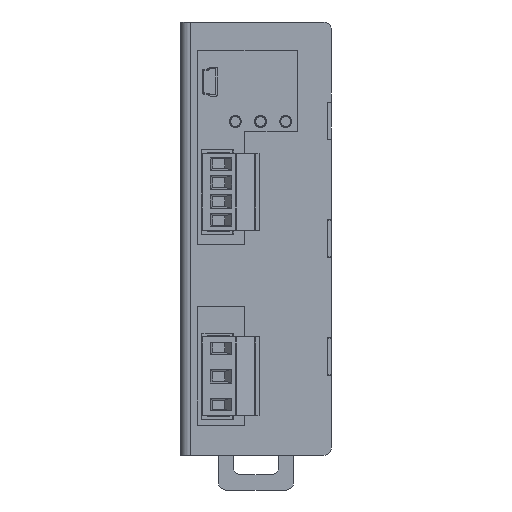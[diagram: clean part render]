
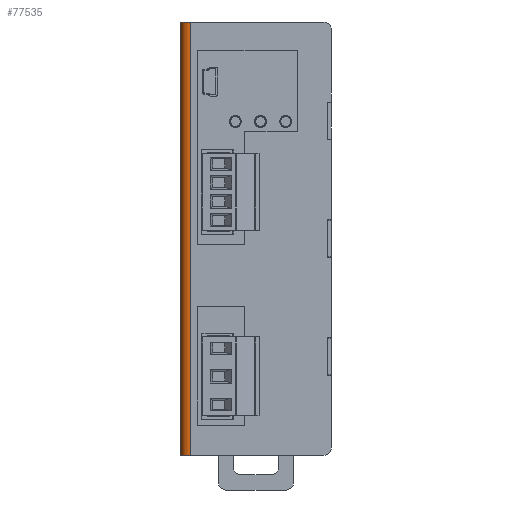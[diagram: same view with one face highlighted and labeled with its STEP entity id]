
A CAD part, left-side view. The second image highlights one B-rep face of the part: STEP entity #77535.
In plain terms, the highlighted cylindrical face has radius 2.5 mm (diameter 5 mm), a partial arc.
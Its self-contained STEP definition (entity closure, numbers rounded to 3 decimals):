
#1910 = ORIENTED_EDGE ( 'NONE', *, *, #30125, .T. ) ;
#3313 = DIRECTION ( 'NONE',  ( -1., 0., 0. ) ) ;
#3397 = DIRECTION ( 'NONE',  ( 0., 0., -1. ) ) ;
#3481 = CARTESIAN_POINT ( 'NONE',  ( -52.5, 17.5, 57.5 ) ) ;
#7641 = CARTESIAN_POINT ( 'NONE',  ( -55., 17.5, 57.5 ) ) ;
#12774 = VECTOR ( 'NONE', #55584, 1000. ) ;
#13339 = LINE ( 'NONE', #72789, #85902 ) ;
#13602 = CYLINDRICAL_SURFACE ( 'NONE', #26540, 2.5 ) ;
#21920 = VERTEX_POINT ( 'NONE', #7641 ) ;
#22939 = VERTEX_POINT ( 'NONE', #43619 ) ;
#26540 = AXIS2_PLACEMENT_3D ( 'NONE', #50652, #29630, #57882 ) ;
#29630 = DIRECTION ( 'NONE',  ( 0., 0., -1. ) ) ;
#30125 = EDGE_CURVE ( 'NONE', #21920, #67012, #41757, .T. ) ;
#30255 = EDGE_CURVE ( 'NONE', #22939, #58212, #71030, .T. ) ;
#30529 = EDGE_CURVE ( 'NONE', #58212, #21920, #13339, .T. ) ;
#32154 = LINE ( 'NONE', #58088, #12774 ) ;
#34469 = CARTESIAN_POINT ( 'NONE',  ( -52.5, 20., 57.5 ) ) ;
#35115 = EDGE_CURVE ( 'NONE', #67012, #22939, #32154, .T. ) ;
#37322 = ORIENTED_EDGE ( 'NONE', *, *, #30529, .T. ) ;
#41757 = CIRCLE ( 'NONE', #76015, 2.5 ) ;
#43619 = CARTESIAN_POINT ( 'NONE',  ( -52.5, 20., -57.5 ) ) ;
#49560 = ORIENTED_EDGE ( 'NONE', *, *, #35115, .T. ) ;
#50652 = CARTESIAN_POINT ( 'NONE',  ( -52.5, 17.5, 57.5 ) ) ;
#53068 = DIRECTION ( 'NONE',  ( -1., 0., 0. ) ) ;
#53253 = DIRECTION ( 'NONE',  ( 0., 0., 1. ) ) ;
#53440 = CARTESIAN_POINT ( 'NONE',  ( -52.5, 17.5, -57.5 ) ) ;
#55584 = DIRECTION ( 'NONE',  ( 0., 0., -1. ) ) ;
#57882 = DIRECTION ( 'NONE',  ( -1., 0., 0. ) ) ;
#57967 = CARTESIAN_POINT ( 'NONE',  ( -55., 17.5, -57.5 ) ) ;
#58088 = CARTESIAN_POINT ( 'NONE',  ( -52.5, 20., 57.5 ) ) ;
#58212 = VERTEX_POINT ( 'NONE', #57967 ) ;
#60162 = ORIENTED_EDGE ( 'NONE', *, *, #30255, .T. ) ;
#67012 = VERTEX_POINT ( 'NONE', #34469 ) ;
#71030 = CIRCLE ( 'NONE', #90452, 2.5 ) ;
#71694 = DIRECTION ( 'NONE',  ( 0., 0., 1. ) ) ;
#72676 = EDGE_LOOP ( 'NONE', ( #1910, #49560, #60162, #37322 ) ) ;
#72789 = CARTESIAN_POINT ( 'NONE',  ( -55., 17.5, 57.5 ) ) ;
#76015 = AXIS2_PLACEMENT_3D ( 'NONE', #3481, #3397, #3313 ) ;
#76483 = FACE_OUTER_BOUND ( 'NONE', #72676, .T. ) ;
#77535 = ADVANCED_FACE ( 'NONE', ( #76483 ), #13602, .T. ) ;
#85902 = VECTOR ( 'NONE', #71694, 1000. ) ;
#90452 = AXIS2_PLACEMENT_3D ( 'NONE', #53440, #53253, #53068 ) ;
